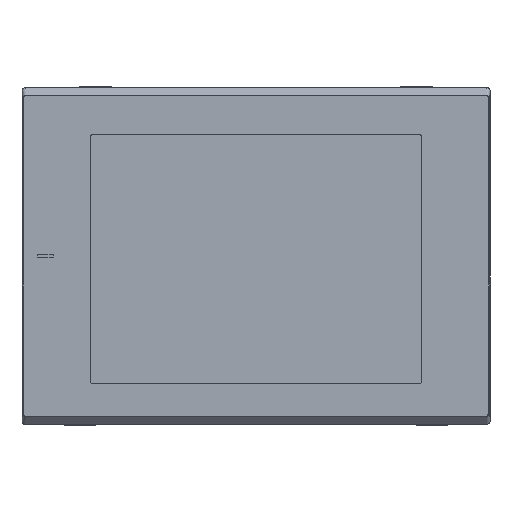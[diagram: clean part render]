
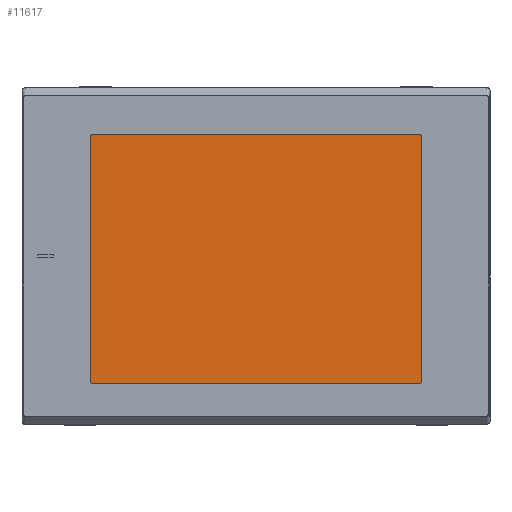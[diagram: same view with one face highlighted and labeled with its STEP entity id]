
A CAD part, top view. The second image highlights one B-rep face of the part: STEP entity #11617.
In plain terms, the highlighted planar face has unit normal (0, 0, 1).
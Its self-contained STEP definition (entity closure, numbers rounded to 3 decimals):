
#1850=CARTESIAN_POINT('',(106.2,77.4,-0.1));
#1851=DIRECTION('',(0.,0.,1.));
#1852=DIRECTION('',(1.,0.,0.));
#1853=AXIS2_PLACEMENT_3D('',#1850,#1851,#1852);
#1855=DIRECTION('',(0.,1.,0.));
#1856=VECTOR('',#1855,158.8);
#1857=CARTESIAN_POINT('',(107.2,-81.4,-0.1));
#1858=LINE('',#1857,#1856);
#1859=CARTESIAN_POINT('',(106.2,-81.4,-0.1));
#1860=DIRECTION('',(0.,0.,1.));
#1861=DIRECTION('',(0.,-1.,0.));
#1862=AXIS2_PLACEMENT_3D('',#1859,#1860,#1861);
#1864=CARTESIAN_POINT('',(-106.2,-81.4,-0.1));
#1865=DIRECTION('',(0.,0.,1.));
#1866=DIRECTION('',(-1.,0.,0.));
#1867=AXIS2_PLACEMENT_3D('',#1864,#1865,#1866);
#1869=CARTESIAN_POINT('',(-106.2,77.4,-0.1));
#1870=DIRECTION('',(0.,0.,1.));
#1871=DIRECTION('',(0.,1.,0.));
#1872=AXIS2_PLACEMENT_3D('',#1869,#1870,#1871);
#1882=DIRECTION('',(-1.,0.,0.));
#1883=VECTOR('',#1882,212.4);
#1884=CARTESIAN_POINT('',(106.2,78.4,-0.1));
#1885=LINE('',#1884,#1883);
#1898=DIRECTION('',(0.,-1.,0.));
#1899=VECTOR('',#1898,158.8);
#1900=CARTESIAN_POINT('',(-107.2,77.4,-0.1));
#1901=LINE('',#1900,#1899);
#1914=DIRECTION('',(1.,0.,0.));
#1915=VECTOR('',#1914,212.4);
#1916=CARTESIAN_POINT('',(-106.2,-82.4,-0.1));
#1917=LINE('',#1916,#1915);
#7518=CARTESIAN_POINT('',(107.2,-81.4,-0.1));
#7519=CARTESIAN_POINT('',(107.2,77.4,-0.1));
#7520=VERTEX_POINT('',#7518);
#7521=VERTEX_POINT('',#7519);
#7522=CARTESIAN_POINT('',(106.2,78.4,-0.1));
#7523=VERTEX_POINT('',#7522);
#7524=CARTESIAN_POINT('',(106.2,-82.4,-0.1));
#7525=VERTEX_POINT('',#7524);
#7526=CARTESIAN_POINT('',(-106.2,-82.4,-0.1));
#7527=VERTEX_POINT('',#7526);
#7528=CARTESIAN_POINT('',(-107.2,-81.4,-0.1));
#7529=VERTEX_POINT('',#7528);
#7530=CARTESIAN_POINT('',(-107.2,77.4,-0.1));
#7531=VERTEX_POINT('',#7530);
#7532=CARTESIAN_POINT('',(-106.2,78.4,-0.1));
#7533=VERTEX_POINT('',#7532);
#11595=CARTESIAN_POINT('',(0.,-2.,-0.1));
#11596=DIRECTION('',(0.,0.,1.));
#11597=DIRECTION('',(1.,0.,0.));
#11598=AXIS2_PLACEMENT_3D('',#11595,#11596,#11597);
#11599=PLANE('',#11598);
#11601=ORIENTED_EDGE('',*,*,#11600,.F.);
#11602=ORIENTED_EDGE('',*,*,#11585,.F.);
#11604=ORIENTED_EDGE('',*,*,#11603,.F.);
#11606=ORIENTED_EDGE('',*,*,#11605,.F.);
#11608=ORIENTED_EDGE('',*,*,#11607,.F.);
#11610=ORIENTED_EDGE('',*,*,#11609,.F.);
#11612=ORIENTED_EDGE('',*,*,#11611,.F.);
#11614=ORIENTED_EDGE('',*,*,#11613,.F.);
#11615=EDGE_LOOP('',(#11601,#11602,#11604,#11606,#11608,#11610,#11612,#11614));
#11616=FACE_OUTER_BOUND('',#11615,.F.);
#11617=ADVANCED_FACE('',(#11616),#11599,.T.);
#1854=CIRCLE('',#1853,1.);
#1863=CIRCLE('',#1862,1.);
#1868=CIRCLE('',#1867,1.);
#1873=CIRCLE('',#1872,1.);
#11585=EDGE_CURVE('',#7520,#7521,#1858,.T.);
#11600=EDGE_CURVE('',#7521,#7523,#1854,.T.);
#11603=EDGE_CURVE('',#7525,#7520,#1863,.T.);
#11605=EDGE_CURVE('',#7527,#7525,#1917,.T.);
#11607=EDGE_CURVE('',#7529,#7527,#1868,.T.);
#11609=EDGE_CURVE('',#7531,#7529,#1901,.T.);
#11611=EDGE_CURVE('',#7533,#7531,#1873,.T.);
#11613=EDGE_CURVE('',#7523,#7533,#1885,.T.);
